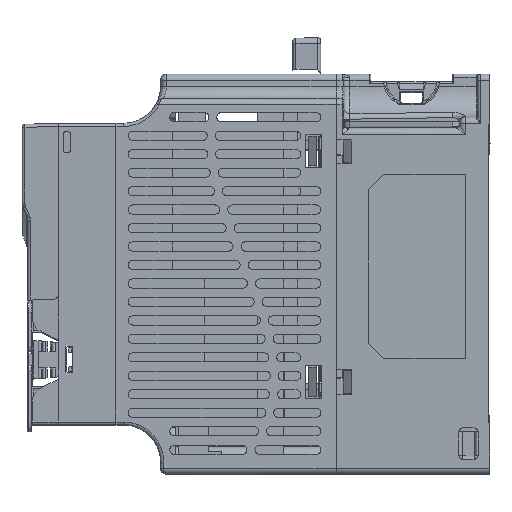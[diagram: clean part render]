
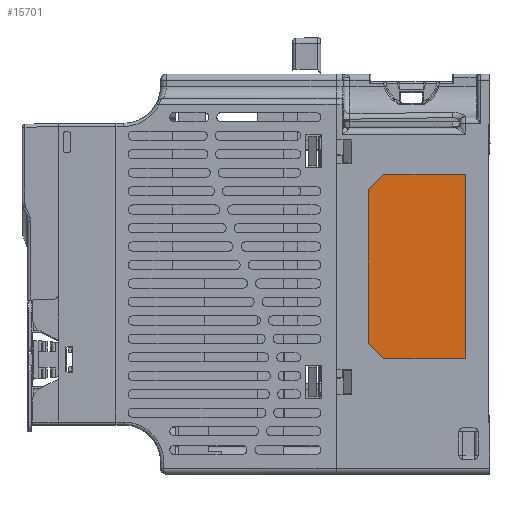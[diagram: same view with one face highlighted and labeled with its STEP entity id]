
A CAD part, left-side view. The second image highlights one B-rep face of the part: STEP entity #15701.
In plain terms, the highlighted planar face has unit normal (-1, 0, 0).
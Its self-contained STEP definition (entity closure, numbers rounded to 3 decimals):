
#4526=DIRECTION('',(0.,0.707,0.707));
#4527=VECTOR('',#4526,7.071);
#4528=CARTESIAN_POINT('',(0.3,34.5,-92.5));
#4529=LINE('',#4528,#4527);
#4530=DIRECTION('',(0.,0.,1.));
#4531=VECTOR('',#4530,50.);
#4532=CARTESIAN_POINT('',(0.3,39.5,-87.5));
#4533=LINE('',#4532,#4531);
#4534=DIRECTION('',(0.,-0.707,0.707));
#4535=VECTOR('',#4534,7.071);
#4536=CARTESIAN_POINT('',(0.3,39.5,-37.5));
#4537=LINE('',#4536,#4535);
#4538=DIRECTION('',(0.,-1.,0.));
#4539=VECTOR('',#4538,26.5);
#4540=CARTESIAN_POINT('',(0.3,34.5,-32.5));
#4541=LINE('',#4540,#4539);
#4542=DIRECTION('',(0.,0.,-1.));
#4543=VECTOR('',#4542,60.);
#4544=CARTESIAN_POINT('',(0.3,8.,-32.5));
#4545=LINE('',#4544,#4543);
#4546=DIRECTION('',(0.,1.,0.));
#4547=VECTOR('',#4546,26.5);
#4548=CARTESIAN_POINT('',(0.3,8.,-92.5));
#4549=LINE('',#4548,#4547);
#11064=CARTESIAN_POINT('',(0.3,39.5,-87.5));
#11065=CARTESIAN_POINT('',(0.3,34.5,-92.5));
#11066=VERTEX_POINT('',#11064);
#11067=VERTEX_POINT('',#11065);
#11068=CARTESIAN_POINT('',(0.3,8.,-92.5));
#11069=VERTEX_POINT('',#11068);
#11070=CARTESIAN_POINT('',(0.3,8.,-32.5));
#11071=VERTEX_POINT('',#11070);
#11072=CARTESIAN_POINT('',(0.3,34.5,-32.5));
#11073=VERTEX_POINT('',#11072);
#11074=CARTESIAN_POINT('',(0.3,39.5,-37.5));
#11075=VERTEX_POINT('',#11074);
#15682=CARTESIAN_POINT('',(0.3,50.,0.));
#15683=DIRECTION('',(-1.,0.,0.));
#15684=DIRECTION('',(0.,0.,1.));
#15685=AXIS2_PLACEMENT_3D('',#15682,#15683,#15684);
#15686=PLANE('',#15685);
#15688=ORIENTED_EDGE('',*,*,#15687,.T.);
#15690=ORIENTED_EDGE('',*,*,#15689,.T.);
#15692=ORIENTED_EDGE('',*,*,#15691,.T.);
#15694=ORIENTED_EDGE('',*,*,#15693,.T.);
#15696=ORIENTED_EDGE('',*,*,#15695,.T.);
#15698=ORIENTED_EDGE('',*,*,#15697,.T.);
#15699=EDGE_LOOP('',(#15688,#15690,#15692,#15694,#15696,#15698));
#15700=FACE_OUTER_BOUND('',#15699,.F.);
#15687=EDGE_CURVE('',#11067,#11066,#4529,.T.);
#15689=EDGE_CURVE('',#11066,#11075,#4533,.T.);
#15691=EDGE_CURVE('',#11075,#11073,#4537,.T.);
#15693=EDGE_CURVE('',#11073,#11071,#4541,.T.);
#15695=EDGE_CURVE('',#11071,#11069,#4545,.T.);
#15697=EDGE_CURVE('',#11069,#11067,#4549,.T.);
#15701=ADVANCED_FACE('',(#15700),#15686,.T.);
